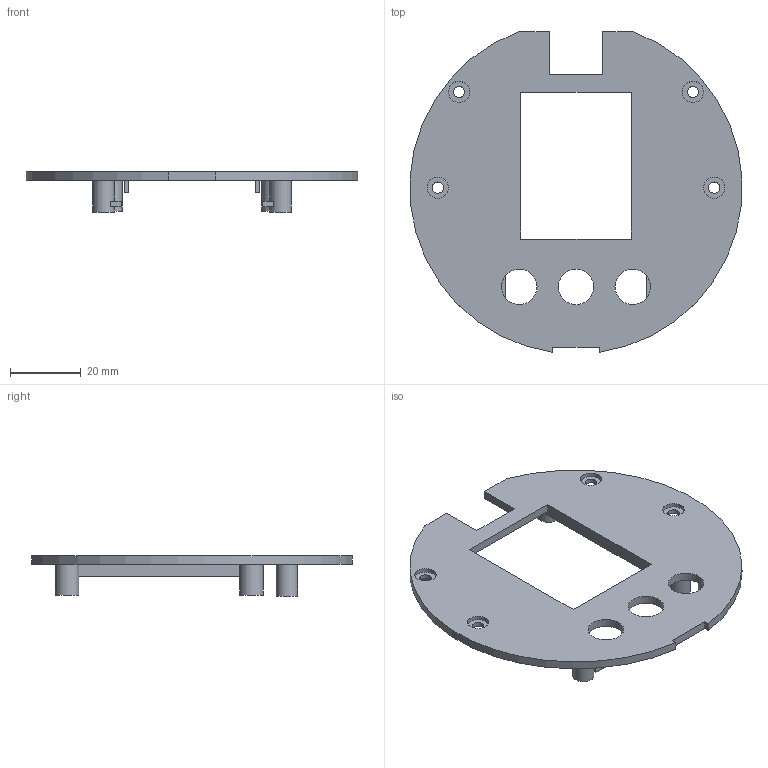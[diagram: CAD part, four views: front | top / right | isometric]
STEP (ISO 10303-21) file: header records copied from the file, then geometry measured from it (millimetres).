
FILE_DESCRIPTION(('Open CASCADE Model'),'2;1');
FILE_NAME('Open CASCADE Shape Model','2026-09-16T15:55:10',('Author'),( 'Open CASCADE'),'Open CASCADE STEP processor 7.9','Open CASCADE 7.9' ,'Unknown');
FILE_SCHEMA(('AUTOMOTIVE_DESIGN { 1 0 10303 214 1 1 1 1 }'));
Length unit declared in the file: millimetre
Products named in the file (1): Open CASCADE STEP translator 7.9 3
Bounding box: 93.64 x 90.45 x 11.4 mm (x, y, z)
Volume: 14088.4 mm3; surface area: 13773.4 mm2
Topology: 1 solids, 1 shells, 79 faces, 174 edges, 116 vertices
Faces by surface type: plane 54, cylinder 25
Full cylindrical faces by diameter (mm): 2.1 x6, 3.2 x4, 6 x6, 6.6 x4, 10 x3
Entity records: 4504 total; most frequent: CARTESIAN_POINT 954, DIRECTION 642, ORIENTED_EDGE 348, PCURVE 348, DEFINITIONAL_REPRESENTATION 348, LINE 342, VECTOR 342, EDGE_CURVE 174
